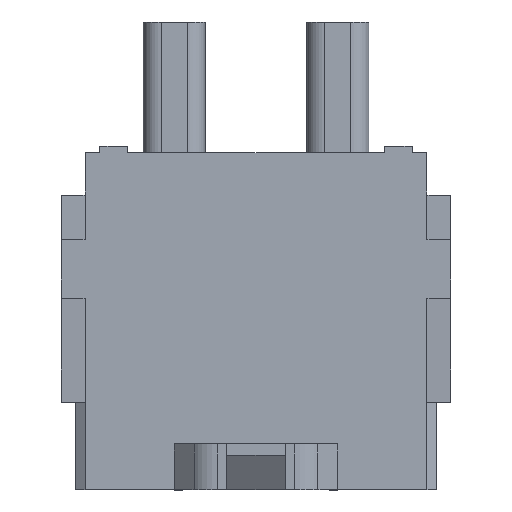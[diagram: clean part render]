
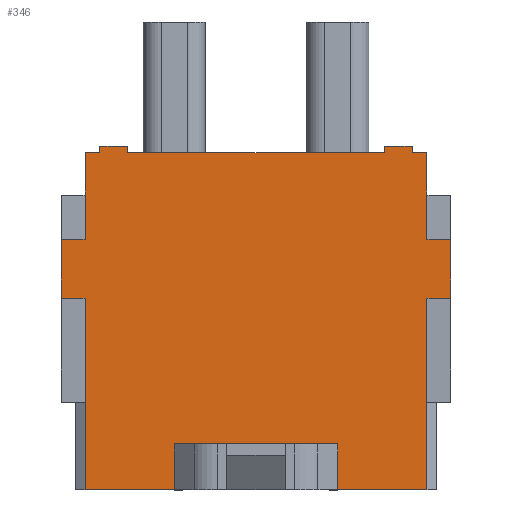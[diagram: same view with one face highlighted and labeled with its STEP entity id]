
A CAD part, top view. The second image highlights one B-rep face of the part: STEP entity #346.
In plain terms, the highlighted planar face has unit normal (0, 0, 1).
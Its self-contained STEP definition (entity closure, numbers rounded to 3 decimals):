
#137=FACE_OUTER_BOUND('',#758,.T.);
#346=ADVANCED_FACE('',(#137),#547,.T.);
#547=PLANE('',#4259);
#758=EDGE_LOOP('',(#1252,#1253,#1254,#1255,#1256,#1257,#1258,#1259,#1260,
#1261,#1262,#1263,#1264,#1265,#1266,#1267,#1268,#1269,#1270,#1271,#1272,
#1273,#1274,#1275));
#1252=ORIENTED_EDGE('',*,*,#2779,.F.);
#1253=ORIENTED_EDGE('',*,*,#2780,.T.);
#1254=ORIENTED_EDGE('',*,*,#2781,.T.);
#1255=ORIENTED_EDGE('',*,*,#2710,.F.);
#1256=ORIENTED_EDGE('',*,*,#2782,.F.);
#1257=ORIENTED_EDGE('',*,*,#2783,.F.);
#1258=ORIENTED_EDGE('',*,*,#2784,.F.);
#1259=ORIENTED_EDGE('',*,*,#2785,.T.);
#1260=ORIENTED_EDGE('',*,*,#2668,.F.);
#1261=ORIENTED_EDGE('',*,*,#2569,.T.);
#1262=ORIENTED_EDGE('',*,*,#2786,.F.);
#1263=ORIENTED_EDGE('',*,*,#2787,.F.);
#1264=ORIENTED_EDGE('',*,*,#2788,.T.);
#1265=ORIENTED_EDGE('',*,*,#2565,.T.);
#1266=ORIENTED_EDGE('',*,*,#2789,.F.);
#1267=ORIENTED_EDGE('',*,*,#2790,.F.);
#1268=ORIENTED_EDGE('',*,*,#2791,.T.);
#1269=ORIENTED_EDGE('',*,*,#2561,.T.);
#1270=ORIENTED_EDGE('',*,*,#2643,.T.);
#1271=ORIENTED_EDGE('',*,*,#2792,.T.);
#1272=ORIENTED_EDGE('',*,*,#2771,.T.);
#1273=ORIENTED_EDGE('',*,*,#2793,.F.);
#1274=ORIENTED_EDGE('',*,*,#2794,.T.);
#1275=ORIENTED_EDGE('',*,*,#2692,.F.);
#2160=VERTEX_POINT('',#5623);
#2161=VERTEX_POINT('',#5625);
#2164=VERTEX_POINT('',#5631);
#2165=VERTEX_POINT('',#5633);
#2168=VERTEX_POINT('',#5639);
#2169=VERTEX_POINT('',#5641);
#2231=VERTEX_POINT('',#5789);
#2255=VERTEX_POINT('',#5842);
#2274=VERTEX_POINT('',#5888);
#2275=VERTEX_POINT('',#5890);
#2290=VERTEX_POINT('',#5922);
#2291=VERTEX_POINT('',#5924);
#2336=VERTEX_POINT('',#6038);
#2337=VERTEX_POINT('',#6040);
#2344=VERTEX_POINT('',#6056);
#2345=VERTEX_POINT('',#6058);
#2346=VERTEX_POINT('',#6061);
#2347=VERTEX_POINT('',#6063);
#2348=VERTEX_POINT('',#6065);
#2349=VERTEX_POINT('',#6068);
#2350=VERTEX_POINT('',#6070);
#2351=VERTEX_POINT('',#6073);
#2352=VERTEX_POINT('',#6075);
#2353=VERTEX_POINT('',#6079);
#2561=EDGE_CURVE('',#2161,#2160,#3146,.T.);
#2565=EDGE_CURVE('',#2165,#2164,#3150,.T.);
#2569=EDGE_CURVE('',#2169,#2168,#3154,.T.);
#2643=EDGE_CURVE('',#2160,#2231,#3216,.T.);
#2668=EDGE_CURVE('',#2169,#2255,#3241,.T.);
#2692=EDGE_CURVE('',#2274,#2275,#3264,.T.);
#2710=EDGE_CURVE('',#2290,#2291,#3282,.T.);
#2771=EDGE_CURVE('',#2337,#2336,#3342,.T.);
#2779=EDGE_CURVE('',#2344,#2274,#3350,.T.);
#2780=EDGE_CURVE('',#2344,#2345,#3351,.T.);
#2781=EDGE_CURVE('',#2345,#2291,#3352,.T.);
#2782=EDGE_CURVE('',#2346,#2290,#3353,.T.);
#2783=EDGE_CURVE('',#2347,#2346,#3354,.T.);
#2784=EDGE_CURVE('',#2348,#2347,#3355,.T.);
#2785=EDGE_CURVE('',#2348,#2255,#3356,.T.);
#2786=EDGE_CURVE('',#2349,#2168,#3357,.T.);
#2787=EDGE_CURVE('',#2350,#2349,#3358,.T.);
#2788=EDGE_CURVE('',#2350,#2165,#3359,.T.);
#2789=EDGE_CURVE('',#2351,#2164,#3360,.T.);
#2790=EDGE_CURVE('',#2352,#2351,#3361,.T.);
#2791=EDGE_CURVE('',#2352,#2161,#3362,.T.);
#2792=EDGE_CURVE('',#2231,#2337,#3363,.T.);
#2793=EDGE_CURVE('',#2353,#2336,#3364,.T.);
#2794=EDGE_CURVE('',#2353,#2275,#3365,.T.);
#3146=LINE('',#5624,#3695);
#3150=LINE('',#5632,#3699);
#3154=LINE('',#5640,#3703);
#3216=LINE('',#5790,#3765);
#3241=LINE('',#5841,#3790);
#3264=LINE('',#5889,#3813);
#3282=LINE('',#5923,#3831);
#3342=LINE('',#6039,#3891);
#3350=LINE('',#6055,#3899);
#3351=LINE('',#6057,#3900);
#3352=LINE('',#6059,#3901);
#3353=LINE('',#6060,#3902);
#3354=LINE('',#6062,#3903);
#3355=LINE('',#6064,#3904);
#3356=LINE('',#6066,#3905);
#3357=LINE('',#6067,#3906);
#3358=LINE('',#6069,#3907);
#3359=LINE('',#6071,#3908);
#3360=LINE('',#6072,#3909);
#3361=LINE('',#6074,#3910);
#3362=LINE('',#6076,#3911);
#3363=LINE('',#6077,#3912);
#3364=LINE('',#6078,#3913);
#3365=LINE('',#6080,#3914);
#3695=VECTOR('',#4538,1.);
#3699=VECTOR('',#4542,1.);
#3703=VECTOR('',#4546,1.);
#3765=VECTOR('',#4658,1.);
#3790=VECTOR('',#4689,1.);
#3813=VECTOR('',#4722,1.);
#3831=VECTOR('',#4740,1.);
#3891=VECTOR('',#4820,1.);
#3899=VECTOR('',#4830,1.);
#3900=VECTOR('',#4831,1.);
#3901=VECTOR('',#4832,1.);
#3902=VECTOR('',#4833,1.);
#3903=VECTOR('',#4834,1.);
#3904=VECTOR('',#4835,1.);
#3905=VECTOR('',#4836,1.);
#3906=VECTOR('',#4837,1.);
#3907=VECTOR('',#4838,1.);
#3908=VECTOR('',#4839,1.);
#3909=VECTOR('',#4840,1.);
#3910=VECTOR('',#4841,1.);
#3911=VECTOR('',#4842,1.);
#3912=VECTOR('',#4843,1.);
#3913=VECTOR('',#4844,1.);
#3914=VECTOR('',#4845,1.);
#4259=AXIS2_PLACEMENT_3D('',#6081,#4846,#4847);
#4538=DIRECTION('',(-1.,0.,0.));
#4542=DIRECTION('',(-1.,0.,0.));
#4546=DIRECTION('',(-1.,0.,0.));
#4658=DIRECTION('',(0.,-1.,0.));
#4689=DIRECTION('',(0.,-1.,0.));
#4722=DIRECTION('',(-1.,0.,0.));
#4740=DIRECTION('',(-1.,0.,0.));
#4820=DIRECTION('',(0.,-1.,0.));
#4830=DIRECTION('',(0.,-1.,0.));
#4831=DIRECTION('',(1.,0.,0.));
#4832=DIRECTION('',(0.,-1.,0.));
#4833=DIRECTION('',(0.,-1.,0.));
#4834=DIRECTION('',(-1.,0.,0.));
#4835=DIRECTION('',(0.,-1.,0.));
#4836=DIRECTION('',(-1.,0.,0.));
#4837=DIRECTION('',(0.,-1.,0.));
#4838=DIRECTION('',(1.,0.,0.));
#4839=DIRECTION('',(0.,-1.,0.));
#4840=DIRECTION('',(0.,-1.,0.));
#4841=DIRECTION('',(1.,0.,0.));
#4842=DIRECTION('',(0.,-1.,0.));
#4843=DIRECTION('',(-1.,0.,0.));
#4844=DIRECTION('',(-1.,0.,0.));
#4845=DIRECTION('',(0.,-1.,0.));
#4846=DIRECTION('',(0.,0.,1.));
#4847=DIRECTION('',(1.,0.,0.));
#5623=CARTESIAN_POINT('',(-10.45,20.6,9.3));
#5624=CARTESIAN_POINT('',(11.91,20.6,9.3));
#5625=CARTESIAN_POINT('',(-9.55,20.6,9.3));
#5631=CARTESIAN_POINT('',(-7.85,20.6,9.3));
#5632=CARTESIAN_POINT('',(11.91,20.6,9.3));
#5633=CARTESIAN_POINT('',(7.85,20.6,9.3));
#5639=CARTESIAN_POINT('',(9.55,20.6,9.3));
#5640=CARTESIAN_POINT('',(11.91,20.6,9.3));
#5641=CARTESIAN_POINT('',(10.45,20.6,9.3));
#5789=CARTESIAN_POINT('',(-10.45,15.3,9.3));
#5790=CARTESIAN_POINT('',(-10.45,20.6,9.3));
#5841=CARTESIAN_POINT('',(10.45,20.6,9.3));
#5842=CARTESIAN_POINT('',(10.45,15.3,9.3));
#5888=CARTESIAN_POINT('',(-5.,0.,9.3));
#5889=CARTESIAN_POINT('',(11.91,0.,9.3));
#5890=CARTESIAN_POINT('',(-10.45,0.,9.3));
#5922=CARTESIAN_POINT('',(10.45,0.,9.3));
#5923=CARTESIAN_POINT('',(11.91,0.,9.3));
#5924=CARTESIAN_POINT('',(5.,0.,9.3));
#6038=CARTESIAN_POINT('',(-11.91,11.7,9.3));
#6039=CARTESIAN_POINT('',(-11.91,20.6,9.3));
#6040=CARTESIAN_POINT('',(-11.91,15.3,9.3));
#6055=CARTESIAN_POINT('',(-5.,2.8,9.3));
#6056=CARTESIAN_POINT('',(-5.,2.8,9.3));
#6057=CARTESIAN_POINT('',(-5.,2.8,9.3));
#6058=CARTESIAN_POINT('',(5.,2.8,9.3));
#6059=CARTESIAN_POINT('',(5.,2.8,9.3));
#6060=CARTESIAN_POINT('',(10.45,11.7,9.3));
#6061=CARTESIAN_POINT('',(10.45,11.7,9.3));
#6062=CARTESIAN_POINT('',(11.91,11.7,9.3));
#6063=CARTESIAN_POINT('',(11.91,11.7,9.3));
#6064=CARTESIAN_POINT('',(11.91,20.6,9.3));
#6065=CARTESIAN_POINT('',(11.91,15.3,9.3));
#6066=CARTESIAN_POINT('',(11.91,15.3,9.3));
#6067=CARTESIAN_POINT('',(9.55,21.,9.3));
#6068=CARTESIAN_POINT('',(9.55,21.,9.3));
#6069=CARTESIAN_POINT('',(7.85,21.,9.3));
#6070=CARTESIAN_POINT('',(7.85,21.,9.3));
#6071=CARTESIAN_POINT('',(7.85,21.,9.3));
#6072=CARTESIAN_POINT('',(-7.85,21.,9.3));
#6073=CARTESIAN_POINT('',(-7.85,21.,9.3));
#6074=CARTESIAN_POINT('',(-9.55,21.,9.3));
#6075=CARTESIAN_POINT('',(-9.55,21.,9.3));
#6076=CARTESIAN_POINT('',(-9.55,21.,9.3));
#6077=CARTESIAN_POINT('',(-11.91,15.3,9.3));
#6078=CARTESIAN_POINT('',(-11.91,11.7,9.3));
#6079=CARTESIAN_POINT('',(-10.45,11.7,9.3));
#6080=CARTESIAN_POINT('',(-10.45,11.7,9.3));
#6081=CARTESIAN_POINT('',(11.91,20.6,9.3));
